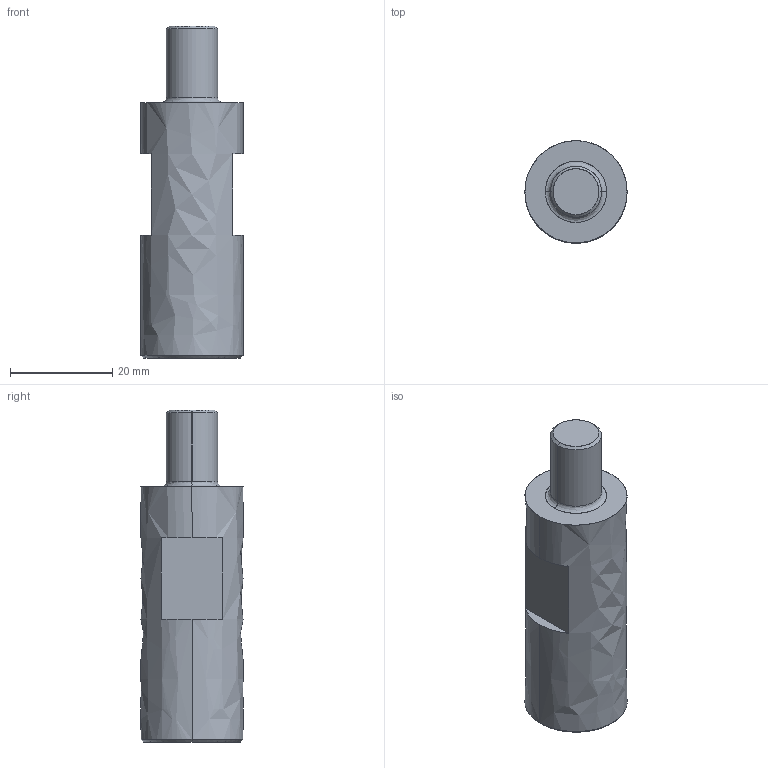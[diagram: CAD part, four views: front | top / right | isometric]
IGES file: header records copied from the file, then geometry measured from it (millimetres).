
Global section: file name: E:\UnigraphicsGraphicData\MISUMI_PRESS-PARTS\IGES\3d_mcup20-50_01357_r00.igs; native system: NX V5.0; preprocessor: UGS NX IGES V5.0; author: MISUMI; date: 20110105.161309; units: millimetre
Bounding box: 20 x 20 x 65 mm (x, y, z)
Surface area: 4239.6 mm2 (no closed solid volume)
Topology: 0 solids, 0 shells, 19 faces, 108 edges, 108 vertices
Faces by surface type: bspline 19
